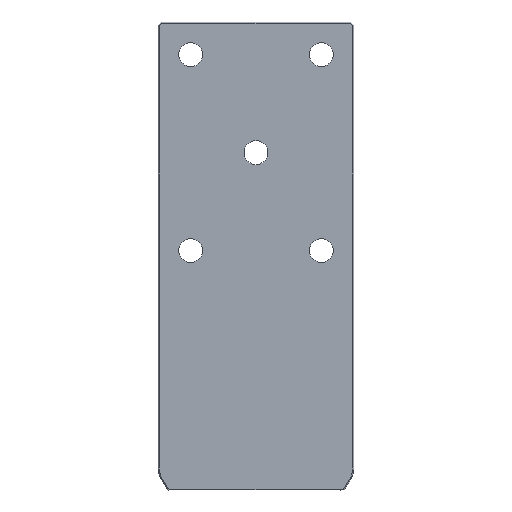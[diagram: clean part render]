
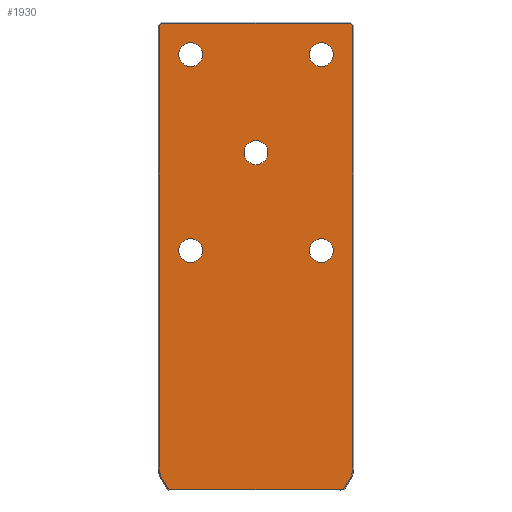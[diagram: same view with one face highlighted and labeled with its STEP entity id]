
A CAD part, front view. The second image highlights one B-rep face of the part: STEP entity #1930.
In plain terms, the highlighted planar face has unit normal (0, -1, 0).
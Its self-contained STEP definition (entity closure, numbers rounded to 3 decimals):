
#135=VERTEX_POINT(' ',#136);
#136=CARTESIAN_POINT('',(60.,-55.,-221.));
#137=VERTEX_POINT(' ',#138);
#138=CARTESIAN_POINT('',(60.,-55.,-199.));
#143=VERTEX_POINT(' ',#144);
#144=CARTESIAN_POINT('',(-60.,-55.,-41.));
#145=VERTEX_POINT(' ',#146);
#146=CARTESIAN_POINT('',(-60.,-55.,-19.));
#151=VERTEX_POINT(' ',#152);
#152=CARTESIAN_POINT('',(60.,-55.,-41.));
#153=VERTEX_POINT(' ',#154);
#154=CARTESIAN_POINT('',(60.,-55.,-19.));
#159=VERTEX_POINT(' ',#160);
#160=CARTESIAN_POINT('',(-60.,-55.,-221.));
#161=VERTEX_POINT(' ',#162);
#162=CARTESIAN_POINT('',(-60.,-55.,-199.));
#167=VERTEX_POINT(' ',#168);
#168=CARTESIAN_POINT('',(0.,-55.,-131.));
#169=VERTEX_POINT(' ',#170);
#170=CARTESIAN_POINT('',(0.,-55.,-109.));
#253=VERTEX_POINT(' ',#254);
#254=CARTESIAN_POINT('',(80.185,-55.,-430.));
#255=VERTEX_POINT(' ',#256);
#256=CARTESIAN_POINT('',(86.454,-55.,-419.141));
#257=VERTEX_POINT(' ',#258);
#258=CARTESIAN_POINT('',(89.,-55.,-409.641));
#259=VERTEX_POINT(' ',#260);
#260=CARTESIAN_POINT('',(89.,-55.,-240.));
#261=VERTEX_POINT(' ',#262);
#262=CARTESIAN_POINT('',(89.,-55.,-3.414));
#265=VERTEX_POINT(' ',#266);
#266=CARTESIAN_POINT('',(86.586,-55.,-1.));
#269=VERTEX_POINT(' ',#270);
#270=CARTESIAN_POINT('',(-86.586,-55.,-1.));
#273=VERTEX_POINT(' ',#274);
#274=CARTESIAN_POINT('',(-89.,-55.,-3.414));
#283=VERTEX_POINT(' ',#284);
#284=CARTESIAN_POINT('',(-80.185,-55.,-430.));
#285=VERTEX_POINT(' ',#286);
#286=CARTESIAN_POINT('',(-89.,-55.,-240.));
#287=VERTEX_POINT(' ',#288);
#288=CARTESIAN_POINT('',(-89.,-55.,-409.641));
#289=VERTEX_POINT(' ',#290);
#290=CARTESIAN_POINT('',(-86.454,-55.,-419.141));
#291=CIRCLE('',#292,11.);
#292=AXIS2_PLACEMENT_3D('',#293,#294,#295);
#293=CARTESIAN_POINT('',(60.,-55.,-210.));
#294=DIRECTION('',(0.,-1.,0.));
#295=DIRECTION('',(-1.,0.,0.));
#296=EDGE_CURVE(' ',#135,#137,#291,.T.);
#313=CIRCLE('',#314,11.);
#314=AXIS2_PLACEMENT_3D('',#315,#316,#317);
#315=CARTESIAN_POINT('',(60.,-55.,-210.));
#316=DIRECTION('',(0.,-1.,0.));
#317=DIRECTION('',(1.,0.,0.));
#318=EDGE_CURVE(' ',#137,#135,#313,.T.);
#325=CIRCLE('',#326,11.);
#326=AXIS2_PLACEMENT_3D('',#327,#328,#329);
#327=CARTESIAN_POINT('',(-60.,-55.,-30.));
#328=DIRECTION('',(0.,-1.,0.));
#329=DIRECTION('',(-1.,0.,0.));
#330=EDGE_CURVE(' ',#143,#145,#325,.T.);
#347=CIRCLE('',#348,11.);
#348=AXIS2_PLACEMENT_3D('',#349,#350,#351);
#349=CARTESIAN_POINT('',(-60.,-55.,-30.));
#350=DIRECTION('',(0.,-1.,0.));
#351=DIRECTION('',(1.,0.,0.));
#352=EDGE_CURVE(' ',#145,#143,#347,.T.);
#359=CIRCLE('',#360,11.);
#360=AXIS2_PLACEMENT_3D('',#361,#362,#363);
#361=CARTESIAN_POINT('',(60.,-55.,-30.));
#362=DIRECTION('',(0.,1.,0.));
#363=DIRECTION('',(-1.,0.,0.));
#364=EDGE_CURVE(' ',#151,#153,#359,.F.);
#381=CIRCLE('',#382,11.);
#382=AXIS2_PLACEMENT_3D('',#383,#384,#385);
#383=CARTESIAN_POINT('',(60.,-55.,-30.));
#384=DIRECTION('',(0.,1.,0.));
#385=DIRECTION('',(1.,0.,0.));
#386=EDGE_CURVE(' ',#153,#151,#381,.F.);
#393=CIRCLE('',#394,11.);
#394=AXIS2_PLACEMENT_3D('',#395,#396,#397);
#395=CARTESIAN_POINT('',(-60.,-55.,-210.));
#396=DIRECTION('',(0.,1.,0.));
#397=DIRECTION('',(-1.,0.,0.));
#398=EDGE_CURVE(' ',#159,#161,#393,.F.);
#415=CIRCLE('',#416,11.);
#416=AXIS2_PLACEMENT_3D('',#417,#418,#419);
#417=CARTESIAN_POINT('',(-60.,-55.,-210.));
#418=DIRECTION('',(0.,1.,0.));
#419=DIRECTION('',(1.,0.,0.));
#420=EDGE_CURVE(' ',#161,#159,#415,.F.);
#427=CIRCLE('',#428,11.);
#428=AXIS2_PLACEMENT_3D('',#429,#430,#431);
#429=CARTESIAN_POINT('',(0.,-55.,-120.));
#430=DIRECTION('',(0.,1.,0.));
#431=DIRECTION('',(-1.,0.,0.));
#432=EDGE_CURVE(' ',#167,#169,#427,.F.);
#449=CIRCLE('',#450,11.);
#450=AXIS2_PLACEMENT_3D('',#451,#452,#453);
#451=CARTESIAN_POINT('',(0.,-55.,-120.));
#452=DIRECTION('',(0.,1.,0.));
#453=DIRECTION('',(1.,0.,0.));
#454=EDGE_CURVE(' ',#169,#167,#449,.F.);
#846=LINE('',#847,#848);
#847=CARTESIAN_POINT('',(86.454,-55.,-419.141));
#848=VECTOR('',#849,1.);
#849=DIRECTION('',(-0.5,0.,-0.866));
#850=EDGE_CURVE(' ',#255,#253,#846,.T.);
#856=CIRCLE('',#857,19.);
#857=AXIS2_PLACEMENT_3D('',#858,#859,#860);
#858=CARTESIAN_POINT('',(70.,-55.,-409.641));
#859=DIRECTION('',(0.,1.,0.));
#860=DIRECTION('',(-0.966,0.,0.259));
#861=EDGE_CURVE(' ',#257,#255,#856,.T.);
#867=LINE('',#868,#869);
#868=CARTESIAN_POINT('',(89.,-55.,-240.));
#869=VECTOR('',#870,1.);
#870=DIRECTION('',(0.,0.,-1.));
#871=EDGE_CURVE(' ',#259,#257,#867,.T.);
#877=LINE('',#878,#879);
#878=CARTESIAN_POINT('',(89.,-55.,2.657));
#879=VECTOR('',#880,1.);
#880=DIRECTION('',(0.,0.,-1.));
#881=EDGE_CURVE(' ',#261,#259,#877,.T.);
#897=LINE('',#898,#899);
#898=CARTESIAN_POINT('',(82.293,-55.,3.293));
#899=VECTOR('',#900,1.);
#900=DIRECTION('',(0.707,0.,-0.707));
#901=EDGE_CURVE(' ',#265,#261,#897,.T.);
#917=LINE('',#918,#919);
#918=CARTESIAN_POINT('',(-92.657,-55.,-1.));
#919=VECTOR('',#920,1.);
#920=DIRECTION('',(1.,0.,0.));
#921=EDGE_CURVE(' ',#269,#265,#917,.T.);
#937=LINE('',#938,#939);
#938=CARTESIAN_POINT('',(-93.293,-55.,-7.707));
#939=VECTOR('',#940,1.);
#940=DIRECTION('',(0.707,0.,0.707));
#941=EDGE_CURVE(' ',#273,#269,#937,.T.);
#988=LINE('',#989,#990);
#989=CARTESIAN_POINT('',(-90.12,-55.,-430.));
#990=VECTOR('',#991,1.);
#991=DIRECTION('',(1.,0.,0.));
#992=EDGE_CURVE(' ',#253,#283,#988,.F.);
#993=LINE('',#994,#995);
#994=CARTESIAN_POINT('',(-89.,-55.,-240.));
#995=VECTOR('',#996,1.);
#996=DIRECTION('',(0.,0.,1.));
#997=EDGE_CURVE(' ',#285,#273,#993,.T.);
#998=LINE('',#999,#1000);
#999=CARTESIAN_POINT('',(-89.,-55.,-409.641));
#1000=VECTOR('',#1001,1.);
#1001=DIRECTION('',(0.,0.,1.));
#1002=EDGE_CURVE(' ',#287,#285,#998,.T.);
#1003=CIRCLE('',#1004,19.);
#1004=AXIS2_PLACEMENT_3D('',#1005,#1006,#1007);
#1005=CARTESIAN_POINT('',(-70.,-55.,-409.641));
#1006=DIRECTION('',(0.,1.,0.));
#1007=DIRECTION('',(0.966,0.,0.259));
#1008=EDGE_CURVE(' ',#289,#287,#1003,.T.);
#1009=LINE('',#1010,#1011);
#1010=CARTESIAN_POINT('',(-77.645,-55.,-434.399));
#1011=VECTOR('',#1012,1.);
#1012=DIRECTION('',(-0.5,0.,0.866));
#1013=EDGE_CURVE(' ',#283,#289,#1009,.T.);
#1891=ORIENTED_EDGE('',*,*,#997,.F.);
#1892=ORIENTED_EDGE('',*,*,#1002,.F.);
#1893=ORIENTED_EDGE('',*,*,#1008,.F.);
#1894=ORIENTED_EDGE('',*,*,#1013,.F.);
#1895=ORIENTED_EDGE('',*,*,#992,.F.);
#1896=ORIENTED_EDGE('',*,*,#850,.F.);
#1897=ORIENTED_EDGE('',*,*,#861,.F.);
#1898=ORIENTED_EDGE('',*,*,#871,.F.);
#1899=ORIENTED_EDGE('',*,*,#881,.F.);
#1900=ORIENTED_EDGE('',*,*,#901,.F.);
#1901=ORIENTED_EDGE('',*,*,#921,.F.);
#1902=ORIENTED_EDGE('',*,*,#941,.F.);
#1903=EDGE_LOOP('',(#1891,#1892,#1893,#1894,#1895,#1896,#1897,#1898,#1899,#1900,#1901,#1902));
#1904=FACE_OUTER_BOUND('',#1903,.T.);
#1905=ORIENTED_EDGE('',*,*,#454,.F.);
#1906=ORIENTED_EDGE('',*,*,#432,.F.);
#1907=EDGE_LOOP('',(#1905,#1906));
#1908=FACE_BOUND('',#1907,.T.);
#1909=ORIENTED_EDGE('',*,*,#420,.F.);
#1910=ORIENTED_EDGE('',*,*,#398,.F.);
#1911=EDGE_LOOP('',(#1909,#1910));
#1912=FACE_BOUND('',#1911,.T.);
#1913=ORIENTED_EDGE('',*,*,#386,.F.);
#1914=ORIENTED_EDGE('',*,*,#364,.F.);
#1915=EDGE_LOOP('',(#1913,#1914));
#1916=FACE_BOUND('',#1915,.T.);
#1917=ORIENTED_EDGE('',*,*,#352,.F.);
#1918=ORIENTED_EDGE('',*,*,#330,.F.);
#1919=EDGE_LOOP('',(#1917,#1918));
#1920=FACE_BOUND('',#1919,.T.);
#1921=ORIENTED_EDGE('',*,*,#318,.F.);
#1922=ORIENTED_EDGE('',*,*,#296,.F.);
#1923=EDGE_LOOP('',(#1921,#1922));
#1924=FACE_BOUND('',#1923,.T.);
#1925=PLANE('',#1926);
#1926=AXIS2_PLACEMENT_3D('',#1927,#1928,#1929);
#1927=CARTESIAN_POINT('',(0.,-55.,0.));
#1928=DIRECTION('',(0.,-1.,0.));
#1929=DIRECTION('',(0.,0.,-1.));
#1930=ADVANCED_FACE('',(#1904,#1908,#1912,#1916,#1920,#1924),#1925,.T.);
